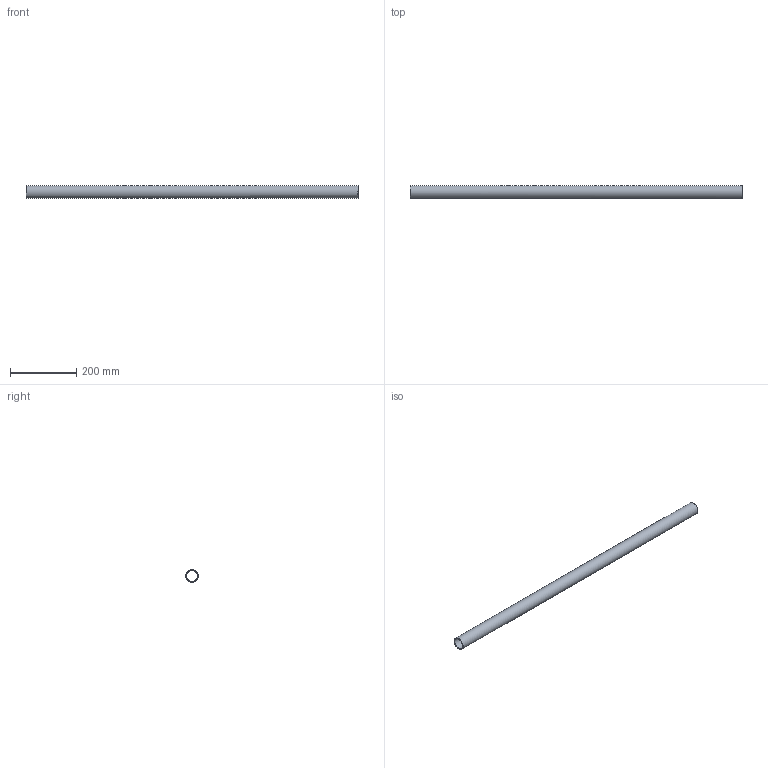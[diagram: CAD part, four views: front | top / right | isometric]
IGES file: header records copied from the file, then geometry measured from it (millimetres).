
Start section: TUBESHOP-BUNDLE-V1 eyJ0dWJlc2hvcCI6MSwia2luZCI6InR1YmVzaG9wLmJ1bmRsZSIsImFwcFZlcnNpb24iOiIx LjEwLjkiLCJuYW1lIjoiUVMxMDkgUXVpY2sgc3RhcnQgZGVtb25zdHJhdGlvbiIsInNvdXJj ZSI6ImZ1c2lvbiIsIm5vdGUiOiIiLCJzdGFtcCI6MTc5MzAyOTQyMSwiY291bnQiOjEsInR1 YmVzIjpbeyJpZCI6IkgxIEJlbnQgaG9zdCIsIm5hbWUiOiJIMSBCZW50IGhvc3QiLCJvZCI6 MS41LCJ3YWxsIjowLjA5NSwic2VjdGlvbiI6eyJraW5kIjoicm91bmQiLCJvZF9pbiI6MS41 LCJ3YWxsX2luIjow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
Global section: file name: H1 Bent host_developed; native system: unknown; preprocessor: unknown; author: unknown; organization: unknown; date: 20261026.114344; units: inch
Bounding box: 1001.39 x 38.1 x 38.1 mm (x, y, z)
Volume: 270972.3 mm3; surface area: 225162.1 mm2
Topology: 1 solids, 1 shells, 4 faces, 412 edges, 806 vertices
Faces by surface type: bspline 4
